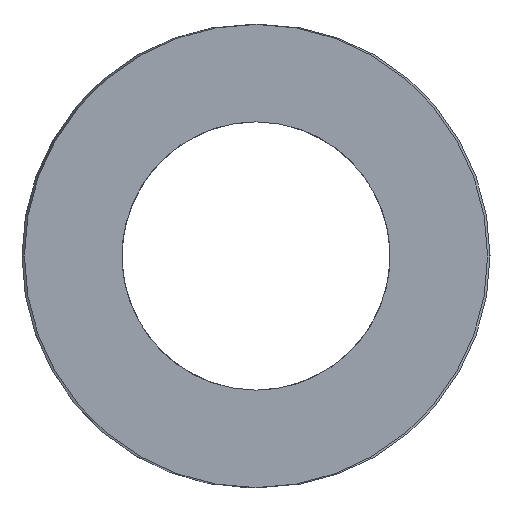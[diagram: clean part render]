
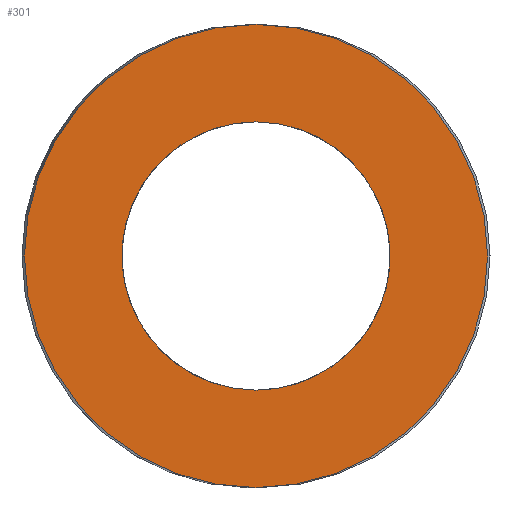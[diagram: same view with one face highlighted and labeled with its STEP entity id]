
A CAD part, left-side view. The second image highlights one B-rep face of the part: STEP entity #301.
In plain terms, the highlighted planar face has unit normal (-1, 0, 0).
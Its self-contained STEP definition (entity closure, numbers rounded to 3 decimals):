
#63=CARTESIAN_POINT('Vertex',(0.,7.6,0.)) ;
#77=CARTESIAN_POINT('Vertex',(0.,-7.6,0.)) ;
#80=CARTESIAN_POINT('Axis2P3D Location',(0.,0.,0.)) ;
#97=CARTESIAN_POINT('Axis2P3D Location',(0.,0.,0.)) ;
#232=CARTESIAN_POINT('Axis2P3D Location',(0.,3.8,0.)) ;
#242=CARTESIAN_POINT('Control Point',(0.,0.,-4.4)) ;
#243=CARTESIAN_POINT('Control Point',(0.,0.411,-4.4)) ;
#244=CARTESIAN_POINT('Control Point',(0.,0.822,-4.352)) ;
#245=CARTESIAN_POINT('Control Point',(0.,1.226,-4.256)) ;
#246=CARTESIAN_POINT('Control Point',(0.,2.003,-3.972)) ;
#247=CARTESIAN_POINT('Control Point',(0.,2.694,-3.516)) ;
#248=CARTESIAN_POINT('Control Point',(0.,3.011,-3.248)) ;
#249=CARTESIAN_POINT('Control Point',(0.,3.577,-2.644)) ;
#250=CARTESIAN_POINT('Control Point',(0.,3.988,-1.926)) ;
#251=CARTESIAN_POINT('Control Point',(0.,4.151,-1.544)) ;
#252=CARTESIAN_POINT('Control Point',(0.,4.384,-0.75)) ;
#253=CARTESIAN_POINT('Control Point',(0.,4.428,0.076)) ;
#254=CARTESIAN_POINT('Control Point',(0.,4.402,0.49)) ;
#255=CARTESIAN_POINT('Control Point',(0.,4.252,1.304)) ;
#256=CARTESIAN_POINT('Control Point',(0.,3.92,2.062)) ;
#257=CARTESIAN_POINT('Control Point',(0.,3.71,2.42)) ;
#258=CARTESIAN_POINT('Control Point',(0.,3.21,3.079)) ;
#259=CARTESIAN_POINT('Control Point',(0.,2.571,3.606)) ;
#260=CARTESIAN_POINT('Control Point',(0.,2.223,3.831)) ;
#261=CARTESIAN_POINT('Control Point',(0.,1.581,4.145)) ;
#262=CARTESIAN_POINT('Control Point',(0.,0.892,4.324)) ;
#263=CARTESIAN_POINT('Control Point',(0.,0.597,4.375)) ;
#264=CARTESIAN_POINT('Control Point',(0.,0.298,4.4)) ;
#265=CARTESIAN_POINT('Control Point',(0.,0.,4.4)) ;
#266=CARTESIAN_POINT('Vertex',(0.,0.,-4.4)) ;
#268=CARTESIAN_POINT('Vertex',(0.,0.,4.4)) ;
#272=CARTESIAN_POINT('Control Point',(0.,0.,4.4)) ;
#273=CARTESIAN_POINT('Control Point',(0.,-0.411,4.4)) ;
#274=CARTESIAN_POINT('Control Point',(0.,-0.822,4.352)) ;
#275=CARTESIAN_POINT('Control Point',(0.,-1.226,4.256)) ;
#276=CARTESIAN_POINT('Control Point',(0.,-2.003,3.972)) ;
#277=CARTESIAN_POINT('Control Point',(0.,-2.694,3.516)) ;
#278=CARTESIAN_POINT('Control Point',(0.,-3.011,3.248)) ;
#279=CARTESIAN_POINT('Control Point',(0.,-3.577,2.644)) ;
#280=CARTESIAN_POINT('Control Point',(0.,-3.988,1.926)) ;
#281=CARTESIAN_POINT('Control Point',(0.,-4.151,1.544)) ;
#282=CARTESIAN_POINT('Control Point',(0.,-4.384,0.75)) ;
#283=CARTESIAN_POINT('Control Point',(0.,-4.428,-0.076)) ;
#284=CARTESIAN_POINT('Control Point',(0.,-4.402,-0.49)) ;
#285=CARTESIAN_POINT('Control Point',(0.,-4.252,-1.304)) ;
#286=CARTESIAN_POINT('Control Point',(0.,-3.92,-2.062)) ;
#287=CARTESIAN_POINT('Control Point',(0.,-3.71,-2.42)) ;
#288=CARTESIAN_POINT('Control Point',(0.,-3.21,-3.079)) ;
#289=CARTESIAN_POINT('Control Point',(0.,-2.571,-3.606)) ;
#290=CARTESIAN_POINT('Control Point',(0.,-2.223,-3.831)) ;
#291=CARTESIAN_POINT('Control Point',(0.,-1.581,-4.145)) ;
#292=CARTESIAN_POINT('Control Point',(0.,-0.892,-4.324)) ;
#293=CARTESIAN_POINT('Control Point',(0.,-0.597,-4.375)) ;
#294=CARTESIAN_POINT('Control Point',(0.,-0.298,-4.4)) ;
#295=CARTESIAN_POINT('Control Point',(0.,0.,-4.4)) ;
#81=DIRECTION('Axis2P3D Direction',(1.,-0.,0.)) ;
#98=DIRECTION('Axis2P3D Direction',(1.,-0.,0.)) ;
#233=DIRECTION('Axis2P3D Direction',(-1.,0.,0.)) ;
#234=DIRECTION('Axis2P3D XDirection',(0.,1.,0.)) ;
#82=AXIS2_PLACEMENT_3D('Circle Axis2P3D',#80,#81,$) ;
#99=AXIS2_PLACEMENT_3D('Circle Axis2P3D',#97,#98,$) ;
#235=AXIS2_PLACEMENT_3D('Plane Axis2P3D',#232,#233,#234) ;
#238=ORIENTED_EDGE('',*,*,#84,.T.) ;
#239=ORIENTED_EDGE('',*,*,#101,.T.) ;
#298=ORIENTED_EDGE('',*,*,#270,.T.) ;
#299=ORIENTED_EDGE('',*,*,#296,.T.) ;
#300=FACE_BOUND('',#297,.T.) ;
#301=ADVANCED_FACE('392-B16-051',(#240,#300),#236,.T.) ;
#241=B_SPLINE_CURVE_WITH_KNOTS('',5,(#242,#243,#244,#245,#246,#247,#248,#249,#250,#251,#252,#253,#254,#255,#256,#257,#258,#259,#260,#261,#262,#263,#264,#265),.UNSPECIFIED.,.F.,.U.,(6,3,3,3,3,3,3,6),(0.,2.907,5.813,8.72,11.626,14.533,17.439,19.549),.UNSPECIFIED.) ;
#271=B_SPLINE_CURVE_WITH_KNOTS('',5,(#272,#273,#274,#275,#276,#277,#278,#279,#280,#281,#282,#283,#284,#285,#286,#287,#288,#289,#290,#291,#292,#293,#294,#295),.UNSPECIFIED.,.F.,.U.,(6,3,3,3,3,3,3,6),(0.,2.907,5.813,8.72,11.626,14.533,17.439,19.549),.UNSPECIFIED.) ;
#83=CIRCLE('generated circle',#82,7.6) ;
#100=CIRCLE('generated circle',#99,7.6) ;
#84=EDGE_CURVE('',#64,#78,#83,.F.) ;
#101=EDGE_CURVE('',#78,#64,#100,.F.) ;
#270=EDGE_CURVE('',#267,#269,#241,.T.) ;
#296=EDGE_CURVE('',#269,#267,#271,.T.) ;
#237=EDGE_LOOP('',(#238,#239)) ;
#297=EDGE_LOOP('',(#298,#299)) ;
#240=FACE_OUTER_BOUND('',#237,.T.) ;
#236=PLANE('Plane',#235) ;
#64=VERTEX_POINT('',#63) ;
#78=VERTEX_POINT('',#77) ;
#267=VERTEX_POINT('',#266) ;
#269=VERTEX_POINT('',#268) ;
